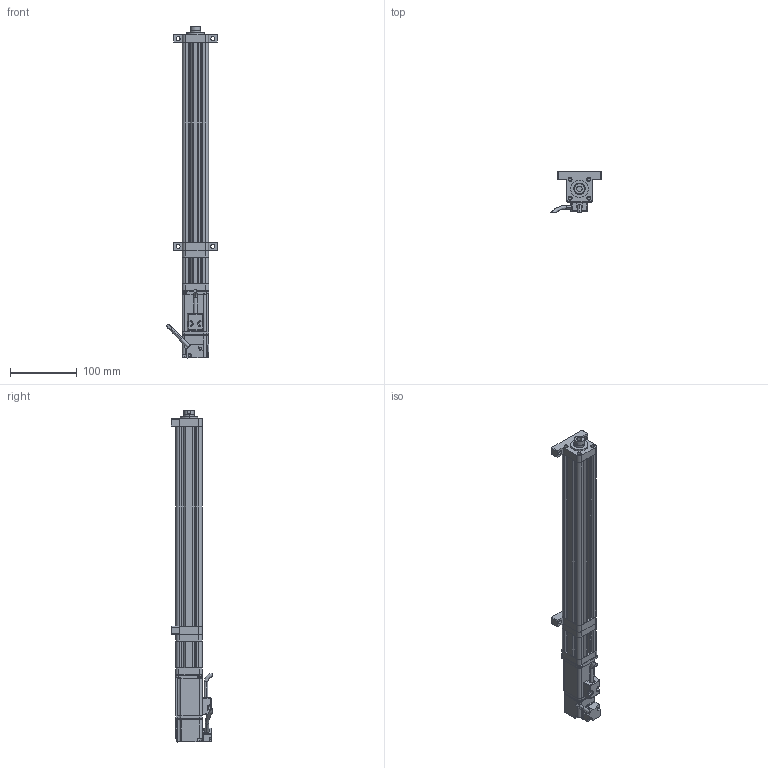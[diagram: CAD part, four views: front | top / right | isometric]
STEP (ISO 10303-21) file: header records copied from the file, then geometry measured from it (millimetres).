
FILE_DESCRIPTION (( 'STEP AP214' ), '1' );
FILE_NAME ('039-S250-D02-A-M2-C2-2.STEP', '2021-03-02T05:36:19', ( '' ), ( '' ), 'SwSTEP 2.0', 'SolidWorks 2018', '' );
FILE_SCHEMA (( 'AUTOMOTIVE_DESIGN' ));
Length unit declared in the file: millimetre
Products named in the file (9): CMC039-GT; CMC039-DJZ; CMC039-AZB; CMC039-ZLLJB; CMC039-HDB; CMC039-DT; ECMA-CX0401ES-40框號系列機種-100W低慣量系列; CMC039-QDB; 039-S250-D02-A-M2-C2-2
Assembly tree (8 placements, depth 2):
  039-S250-D02-A-M2-C2-2
    CMC039-GT
    CMC039-DT
    CMC039-ZLLJB
    CMC039-DJZ
    ECMA-CX0401ES-40框號系列機種-100W低慣量系列
    CMC039-AZB
    CMC039-HDB
    CMC039-QDB
Bounding box: 75.34 x 61.89 x 495.6 mm (x, y, z)
Volume: 516846.8 mm3; surface area: 171615.5 mm2
Topology: 8 solids, 16 shells, 735 faces, 1942 edges, 1223 vertices
Faces by surface type: cylinder 308, plane 306, bspline 84, cone 37
Entity records: 28972 total; most frequent: CARTESIAN_POINT 11393, ORIENTED_EDGE 3818, DIRECTION 3159, EDGE_CURVE 1909, VERTEX_POINT 1223, AXIS2_PLACEMENT_3D 1076, VECTOR 1007, LINE 1007
